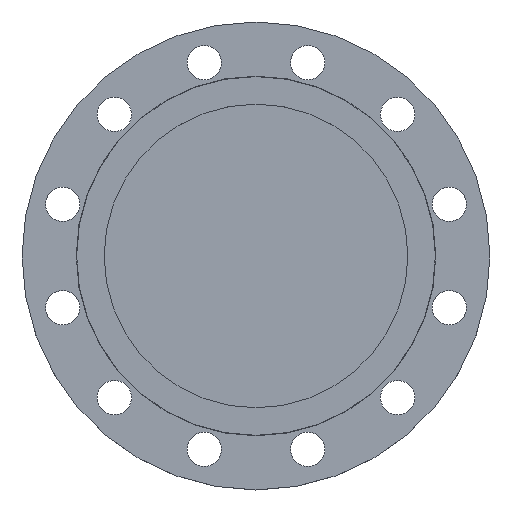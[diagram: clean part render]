
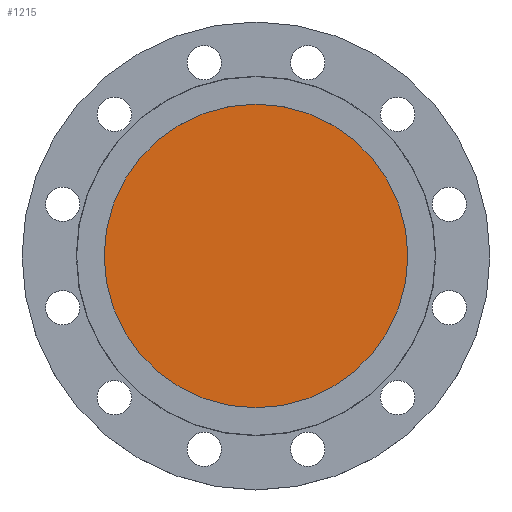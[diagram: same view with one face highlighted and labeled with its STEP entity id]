
A CAD part, top view. The second image highlights one B-rep face of the part: STEP entity #1215.
In plain terms, the highlighted planar face has unit normal (0, 0, 1).
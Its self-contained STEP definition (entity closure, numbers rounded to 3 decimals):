
#71 = CARTESIAN_POINT ( 'NONE',  ( 146., 0., -5. ) ) ;
#87 = CIRCLE ( 'NONE', #117, 146. ) ;
#117 = AXIS2_PLACEMENT_3D ( 'NONE', #697, #695, #693 ) ;
#124 = DIRECTION ( 'NONE',  ( 1., 0., 0. ) ) ;
#126 = DIRECTION ( 'NONE',  ( 0., 0., 1. ) ) ;
#127 = CARTESIAN_POINT ( 'NONE',  ( 0., 0., -5. ) ) ;
#128 = PLANE ( 'NONE',  #260 ) ;
#129 = FACE_OUTER_BOUND ( 'NONE', #919, .T. ) ;
#159 = CIRCLE ( 'NONE', #448, 146. ) ;
#189 = CARTESIAN_POINT ( 'NONE',  ( -146., 0., -5. ) ) ;
#260 = AXIS2_PLACEMENT_3D ( 'NONE', #127, #126, #124 ) ;
#332 = EDGE_CURVE ( 'NONE', #1248, #1160, #159, .T. ) ;
#426 = EDGE_CURVE ( 'NONE', #1160, #1248, #87, .T. ) ;
#448 = AXIS2_PLACEMENT_3D ( 'NONE', #729, #728, #726 ) ;
#693 = DIRECTION ( 'NONE',  ( -1., 0., 0. ) ) ;
#695 = DIRECTION ( 'NONE',  ( 0., 0., -1. ) ) ;
#697 = CARTESIAN_POINT ( 'NONE',  ( 0., 0., -5. ) ) ;
#726 = DIRECTION ( 'NONE',  ( -1., 0., 0. ) ) ;
#728 = DIRECTION ( 'NONE',  ( 0., 0., -1. ) ) ;
#729 = CARTESIAN_POINT ( 'NONE',  ( 0., 0., -5. ) ) ;
#919 = EDGE_LOOP ( 'NONE', ( #967, #969 ) ) ;
#967 = ORIENTED_EDGE ( 'NONE', *, *, #426, .F. ) ;
#969 = ORIENTED_EDGE ( 'NONE', *, *, #332, .F. ) ;
#1160 = VERTEX_POINT ( 'NONE', #189 ) ;
#1215 = ADVANCED_FACE ( 'NONE', ( #129 ), #128, .T. ) ;
#1248 = VERTEX_POINT ( 'NONE', #71 ) ;
